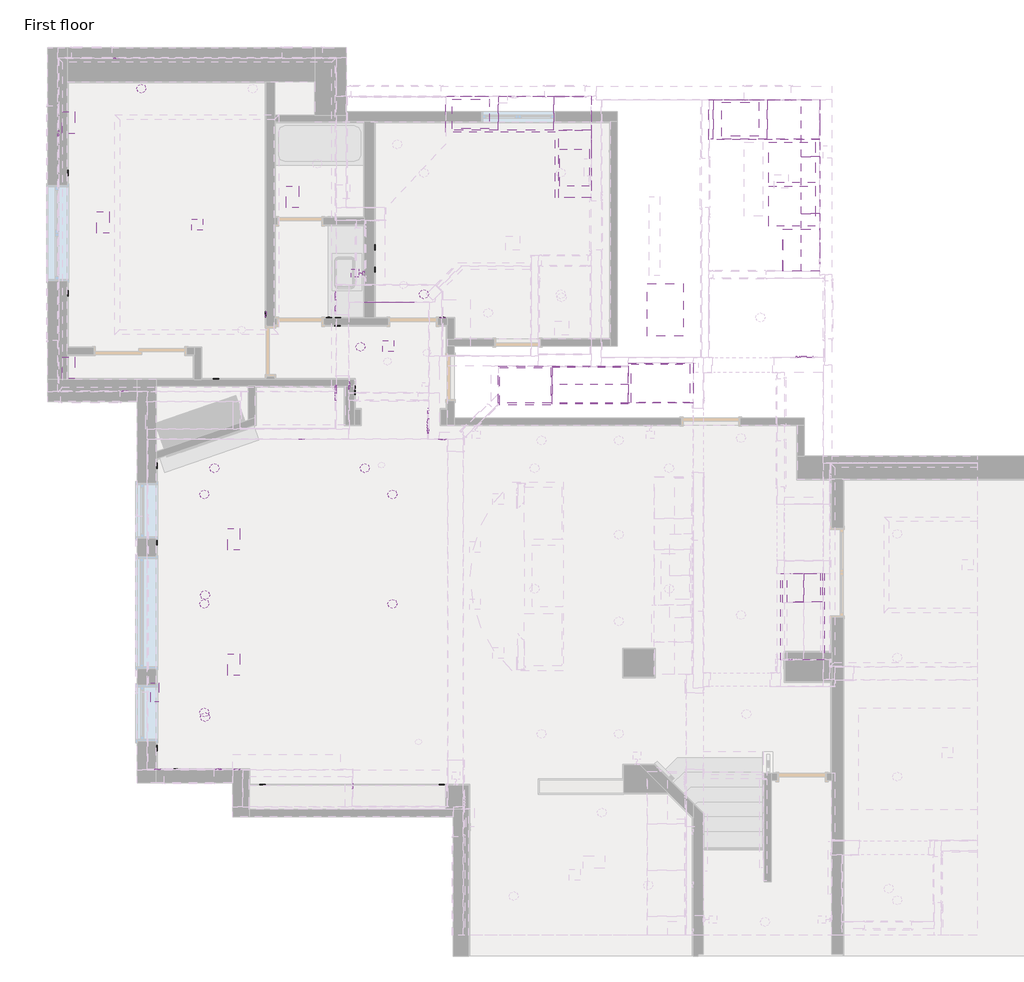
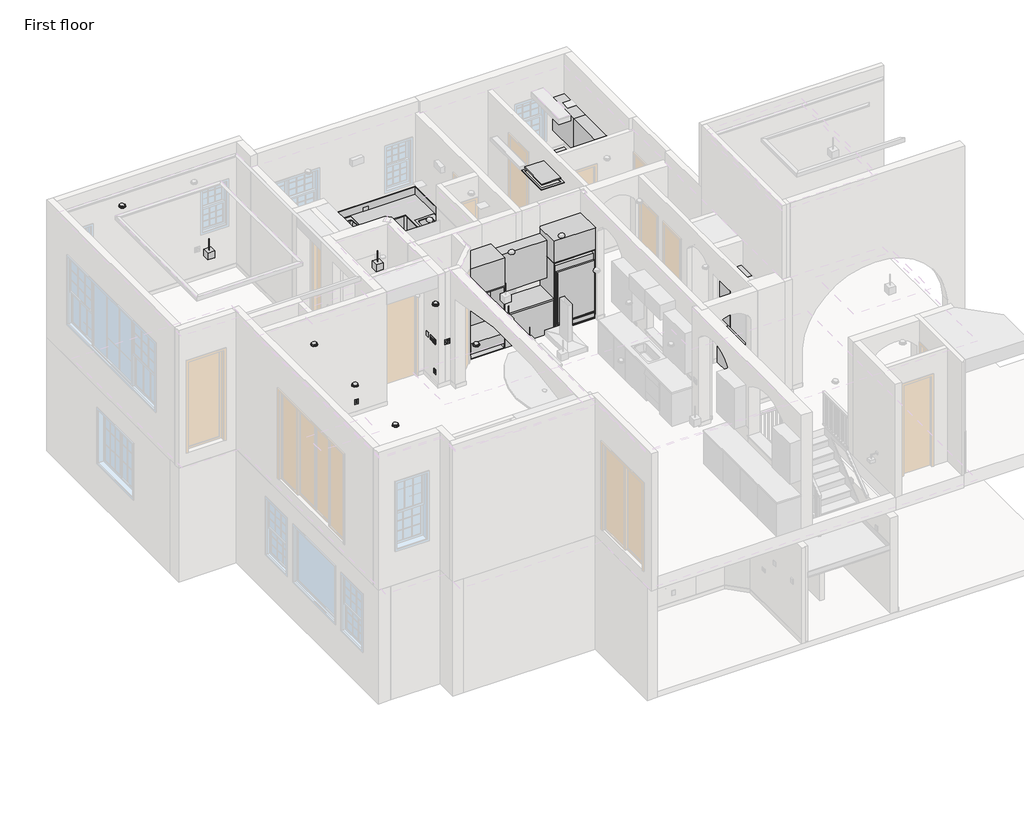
# One storey, part 12 of 14: 46 proxies, 26 furniture elements, 15 light fixtures, 8 air terminals, 3 flow terminals.
"""IFC4 building model written with IfcOpenShell, lengths in millimetres."""

from ifc_helpers import new_model, si_unit, frame, origin, place, context, project, spatial, polyline, outline, extrude, faceted_brep, transform, mapped, element, save
from components import c_grill_surface_based_standard_2_7b59e936, c_grill_surface_based_standard_2_45ac2899, c_grill_surface_based_standard_2_68979a2f, specialty_equipment_1_specialty_equipment_1_ee93a8f8, specialty_equipment_1_specialty_equipment_1_de8e0843, specialty_equipment_1_specialty_equipment_1_e1410e21, specialty_equipment_2_specialty_equipment_2_f9cf8948, switch_1_switch_1_abfddd09, switch_22_switch_22_35867e67, switch_3_switch_3_7c683c41, switch_4_switch_4_5f3987fe, switch_6_switch_6_e364368d, c_kitchen_sink_single_c_kitchen_sink_single_6c047c32, c_kitchen_sink_single_c_kitchen_sink_single_4_a6143ec4, c_cabinet_module_double_door_c_cabinet_module_double_door_1fb921e0, c_cabinet_module_double_door_c_cabinet_module_double_door_c146abdf, c_cabinet_module_double_door_c_cabinet_module_double_door_f981fd00, c_cabinet_module_double_door_c_cabinet_module_double_door_bf593a0d, c_cabinet_module_double_door_c_cabinet_module_double_door_be9bbc3e, c_cabinet_module_double_door_c_cabinet_module_double_door_87059c84, c_cabinet_module_double_door_c_cabinet_module_double_door_7147030d, c_cabinet_single_module_c_cabinet_single_module_e00544f8, c_cabinet_single_module_c_cabinet_single_module_c600df44, c_cabinet_single_module_c_cabinet_single_module_a6067ae1, c_cabinet_single_module_c_cabinet_single_module_e27e7181, c_cabinet_single_module_c_cabinet_single_module_ce7187a6, c_cabinet_single_module_c_cabinet_single_module_8d94940a, c_casework_empty_c_casework_empty_296c2951, c_counter_top_linear_without_skirting_c_counter_top_linear_7753b59d, c_counter_top_linear_without_skirting_c_counter_top_linear_65480b5c, c_counter_top_linear_counter_top_0d20d607, furniture_08fd158a, light_fixture_d200bb49, c_ceiling_lamp_c_ceiling_lamp_de8f2177, c_spotlight_recessed_light_2_4ee42974

model = new_model("IFC4")

# Units and contexts
model_context = context("Model", 3, world=origin())
ifc_project = project(units=[si_unit("LENGTHUNIT", "METRE", prefix="MILLI")], contexts=[model_context])

# Site, building, storey
site = spatial("IfcSite", under=ifc_project)
building = spatial("IfcBuilding", under=site)
storey = spatial("IfcBuildingStorey", under=building, Name="First floor", Elevation=0.0)

# Air terminals
placement = place(None, origin())
c_grill_surface_based_standard_2_shape = c_grill_surface_based_standard_2_7b59e936(model_context)
element("IfcAirTerminal", 1, ObjectType="C_Grill_Surface Based : Standard 2", at=placement, inside=storey, context=model_context, shape_type="MappedRepresentation", body=[
    mapped(c_grill_surface_based_standard_2_shape, transform((-4902.2, 4686.3, 3251.2), x_axis=(1.0, 0.0, 0.0), y_axis=(0.0, 1.0, 0.0), z_axis=(0.0, 0.0, 1.0))),
])
c_grill_surface_based_standard_2_2_shape = c_grill_surface_based_standard_2_45ac2899(model_context)
element("IfcAirTerminal", 2, ObjectType="C_Grill_Surface Based : Standard 2", at=placement, inside=storey, context=model_context, shape_type="MappedRepresentation", body=[
    mapped(c_grill_surface_based_standard_2_2_shape, transform((-3606.8, 5143.5, 2565.4), x_axis=(1.0, 0.0, 0.0), y_axis=(0.0, -1.0, 0.0), z_axis=(0.0, 0.0, -1.0))),
])
element("IfcAirTerminal", 3, ObjectType="C_Grill_Surface Based : Standard 2", at=placement, inside=storey, context=model_context, shape_type="MappedRepresentation", body=[
    mapped(c_grill_surface_based_standard_2_2_shape, transform((-3606.8, 7200.9, 2565.4), x_axis=(1.0, 0.0, 0.0), y_axis=(0.0, -1.0, 0.0), z_axis=(0.0, 0.0, -1.0))),
])
element("IfcAirTerminal", 4, ObjectType="C_Grill_Surface Based : Standard 2", at=placement, inside=storey, context=model_context, shape_type="MappedRepresentation", body=[
    mapped(c_grill_surface_based_standard_2_2_shape, transform((-5753.1, 12407.9, 2565.4), x_axis=(1.0, 0.0, 0.0), y_axis=(0.0, -1.0, 0.0), z_axis=(0.0, 0.0, -1.0))),
])
element("IfcAirTerminal", 5, ObjectType="C_Grill_Surface Based : Standard 2", at=placement, inside=storey, context=model_context, shape_type="MappedRepresentation", body=[
    mapped(c_grill_surface_based_standard_2_2_shape, transform((-2641.6, 12827.0, 2565.4), x_axis=(1.0, 0.0, 0.0), y_axis=(0.0, -1.0, 0.0), z_axis=(0.0, 0.0, -1.0))),
])
element("IfcAirTerminal", 6, ObjectType="C_Grill_Surface Based : Standard 2", at=placement, inside=storey, context=model_context, shape_type="MappedRepresentation", body=[
    mapped(c_grill_surface_based_standard_2_2_shape, transform((-6318.25, 10020.3, 3251.2), x_axis=(1.0, 0.0, 0.0), y_axis=(0.0, 1.0, 0.0), z_axis=(0.0, 0.0, 1.0))),
])
element("IfcAirTerminal", 7, ObjectType="C_Grill_Surface Based : Standard 2", at=placement, inside=storey, context=model_context, shape_type="MappedRepresentation", body=[
    mapped(c_grill_surface_based_standard_2_2_shape, transform((-6318.25, 14046.193904, 3251.2), x_axis=(1.0, 0.0, 0.0), y_axis=(0.0, 1.0, 0.0), z_axis=(0.0, 0.0, 1.0))),
])
c_grill_surface_based_standard_2_3_shape = c_grill_surface_based_standard_2_68979a2f(model_context)
element("IfcAirTerminal", 8, ObjectType="C_Grill_Surface Based : Standard 2", at=placement, inside=storey, context=model_context, shape_type="MappedRepresentation", body=[
    mapped(c_grill_surface_based_standard_2_3_shape, transform((-1047.4934784, 11099.8, 3594.1), x_axis=(-1.0, 0.0, 0.0), y_axis=(0.0, 0.0, -1.0), z_axis=(0.0, -1.0, 0.0))),
])

# Proxies
element("IfcBuildingElementProxy", 9, Name="C_Refrigerator : 30\" x 24\" LH", ObjectType="C_Refrigerator : 30\" x 24\" LH", at=placement, inside=storey, context=model_context, shape_type="SweptSolid", body=[
    extrude(outline(polyline([(3886.2, 9402.7128906), (3886.2, 9364.6128906), (2921.0, 9364.6128906), (2921.0, 9402.7128906), (3886.2, 9402.7128906)])), frame((0.0, 0.0, 3471.8625), z_axis=(0.0, 0.0, 1.0), x_axis=(1.0, 0.0, 0.0)), (0.0, 0.0, 1.0), 6.35),
    extrude(outline(polyline([(2921.0, 9402.7128906), (2927.35, 9402.7128906), (2927.35, 9364.6128906), (2921.0, 9364.6128906), (2921.0, 9402.7128906)])), frame((0.0, 0.0, 3481.3875), z_axis=(0.0, 0.0, 1.0), x_axis=(1.0, 0.0, 0.0)), (0.0, 0.0, 1.0), 1370.0125),
    extrude(outline(polyline([(3886.2, 10079.0871094), (3886.2, 9447.1628906), (2921.0, 9447.1628906), (2921.0, 10079.0871094), (3886.2, 10079.0871094)])), frame((0.0, 0.0, 3251.2), z_axis=(0.0, 0.0, 1.0), x_axis=(1.0, 0.0, 0.0)), (0.0, 0.0, 1.0), 1752.6),
    extrude(outline(polyline([(3886.2, 9440.8128906), (3886.2, 9402.7128906), (2921.0, 9402.7128906), (2921.0, 9440.8128906), (3886.2, 9440.8128906)])), frame((0.0, 0.0, 3481.3875), z_axis=(0.0, 0.0, 1.0), x_axis=(1.0, 0.0, 0.0)), (0.0, 0.0, 1.0), 1370.0125),
    extrude(outline(polyline([(3886.2, 9440.8128906), (3886.2, 9402.7128906), (2921.0, 9402.7128906), (2921.0, 9440.8128906), (3886.2, 9440.8128906)])), frame((0.0, 0.0, 3327.4), z_axis=(0.0, 0.0, 1.0), x_axis=(1.0, 0.0, 0.0)), (0.0, 0.0, 1.0), 150.8125),
])
specialty_equipment_1_specialty_equipment_1_shape = specialty_equipment_1_specialty_equipment_1_ee93a8f8(model_context)
element("IfcBuildingElementProxy", 10, Name="Specialty Equipment_1 : Specialty Equipment_1", ObjectType="Specialty Equipment_1 : Specialty Equipment_1", at=placement, inside=storey, context=model_context, shape_type="MappedRepresentation", body=[
    mapped(specialty_equipment_1_specialty_equipment_1_shape, transform((5181.6, 13392.0447939, 3251.2), x_axis=(0.0, 1.0, 0.0), y_axis=(-1.0, 0.0, 0.0), z_axis=(0.0, 0.0, 1.0))),
])
element("IfcBuildingElementProxy", 11, Name="Specialty Equipment_1 : Specialty Equipment_1", ObjectType="Specialty Equipment_1 : Specialty Equipment_1", at=placement, inside=storey, context=model_context, shape_type="MappedRepresentation", body=[
    mapped(specialty_equipment_1_specialty_equipment_1_shape, transform((5181.6, 12674.4947939, 3251.2), x_axis=(0.0, 1.0, 0.0), y_axis=(-1.0, 0.0, 0.0), z_axis=(0.0, 0.0, 1.0))),
])
specialty_equipment_1_specialty_equipment_1_2_shape = specialty_equipment_1_specialty_equipment_1_de8e0843(model_context)
element("IfcBuildingElementProxy", 12, Name="Specialty Equipment_1 : Specialty Equipment_1", ObjectType="Specialty Equipment_1 : Specialty Equipment_1", at=placement, inside=storey, context=model_context, shape_type="MappedRepresentation", body=[
    mapped(specialty_equipment_1_specialty_equipment_1_2_shape, transform((5651.5, 10210.6947939, 4597.4), x_axis=(1.0, 0.0, 0.0), y_axis=(0.0, 1.0, 0.0), z_axis=(0.0, 0.0, 1.0))),
])
specialty_equipment_1_specialty_equipment_1_3_shape = specialty_equipment_1_specialty_equipment_1_e1410e21(model_context)
element("IfcBuildingElementProxy", 13, Name="Specialty Equipment_1 : Specialty Equipment_1", ObjectType="Specialty Equipment_1 : Specialty Equipment_1", at=placement, inside=storey, context=model_context, shape_type="MappedRepresentation", body=[
    mapped(specialty_equipment_1_specialty_equipment_1_3_shape, transform((5803.9, 10210.6947939, 4597.4), x_axis=(1.0, 0.0, 0.0), y_axis=(0.0, 1.0, 0.0), z_axis=(0.0, 0.0, 1.0))),
])
specialty_equipment_2_specialty_equipment_2_shape = specialty_equipment_2_specialty_equipment_2_f9cf8948(model_context)
element("IfcBuildingElementProxy", 14, Name="Specialty Equipment_2 : Specialty Equipment_2", ObjectType="Specialty Equipment_2 : Specialty Equipment_2", at=placement, inside=storey, context=model_context, shape_type="MappedRepresentation", body=[
    mapped(specialty_equipment_2_specialty_equipment_2_shape, transform((1180.9972395, 10020.3, 3405.1875), x_axis=(1.0, 0.0, 0.0), y_axis=(0.0, 1.0, 0.0), z_axis=(0.0, 0.0, 1.0))),
])
switch_1_switch_1_shape = switch_1_switch_1_abfddd09(model_context)
element("IfcBuildingElementProxy", 15, Name="switch 1 : switch 1", ObjectType="switch 1 : switch 1", at=placement, inside=storey, context=model_context, shape_type="MappedRepresentation", body=[
    mapped(switch_1_switch_1_shape, transform((-1924.05, 11226.8, 3543.3), x_axis=(0.0, -1.0, 0.0), y_axis=(0.0, 0.0, 1.0), z_axis=(-1.0, 0.0, 0.0))),
])
element("IfcBuildingElementProxy", 16, Name="switch 1 : switch 1", ObjectType="switch 1 : switch 1", at=placement, inside=storey, context=model_context, shape_type="MappedRepresentation", body=[
    mapped(switch_1_switch_1_shape, transform((-1924.05, 10998.2, 4305.3), x_axis=(0.0, -1.0, 0.0), y_axis=(0.0, 0.0, 1.0), z_axis=(-1.0, 0.0, 0.0))),
])
element("IfcBuildingElementProxy", 17, Name="switch 1 : switch 1", ObjectType="switch 1 : switch 1", at=placement, inside=storey, context=model_context, shape_type="MappedRepresentation", body=[
    mapped(switch_1_switch_1_shape, transform((-3549.65, 3416.3, 3581.4), x_axis=(-1.0, 0.0, 0.0), y_axis=(0.0, 0.0, 1.0), z_axis=(0.0, 1.0, 0.0))),
])
element("IfcBuildingElementProxy", 18, Name="switch 1 : switch 1", ObjectType="switch 1 : switch 1", at=placement, inside=storey, context=model_context, shape_type="MappedRepresentation", body=[
    mapped(switch_1_switch_1_shape, transform((-4857.75, 3416.3, 3556.0), x_axis=(-1.0, 0.0, 0.0), y_axis=(0.0, 0.0, 1.0), z_axis=(0.0, 1.0, 0.0))),
])
element("IfcBuildingElementProxy", 19, Name="switch 1 : switch 1", ObjectType="switch 1 : switch 1", at=placement, inside=storey, context=model_context, shape_type="MappedRepresentation", body=[
    mapped(switch_1_switch_1_shape, transform((-406.4, 9315.45, 4356.1), x_axis=(0.0, -1.0, 0.0), y_axis=(0.0, 0.0, 1.0), z_axis=(-1.0, 0.0, 0.0))),
])
element("IfcBuildingElementProxy", 20, Name="switch 1 : switch 1", ObjectType="switch 1 : switch 1", at=placement, inside=storey, context=model_context, shape_type="MappedRepresentation", body=[
    mapped(switch_1_switch_1_shape, transform((-4876.8, 8407.4, 1104.9), x_axis=(0.0, 1.0, 0.0), y_axis=(0.0, 0.0, 1.0), z_axis=(1.0, 0.0, 0.0))),
])
element("IfcBuildingElementProxy", 21, Name="switch 1 : switch 1", ObjectType="switch 1 : switch 1", at=placement, inside=storey, context=model_context, shape_type="MappedRepresentation", body=[
    mapped(switch_1_switch_1_shape, transform((-1625.6, 9677.4, 292.1), x_axis=(0.0, 1.0, 0.0), y_axis=(0.0, 0.0, 1.0), z_axis=(1.0, 0.0, 0.0))),
])
element("IfcBuildingElementProxy", 22, Name="switch 1 : switch 1", ObjectType="switch 1 : switch 1", at=placement, inside=storey, context=model_context, shape_type="MappedRepresentation", body=[
    mapped(switch_1_switch_1_shape, transform((-1295.4, 11995.15, 292.1), x_axis=(0.0, 1.0, 0.0), y_axis=(0.0, 0.0, 1.0), z_axis=(1.0, 0.0, 0.0))),
])
element("IfcBuildingElementProxy", 23, Name="switch 1 : switch 1", ObjectType="switch 1 : switch 1", at=placement, inside=storey, context=model_context, shape_type="MappedRepresentation", body=[
    mapped(switch_1_switch_1_shape, transform((-177.8, 10833.1, 1282.7), x_axis=(-1.0, 0.0, 0.0), y_axis=(0.0, 0.0, 1.0), z_axis=(0.0, 1.0, 0.0))),
])
element("IfcBuildingElementProxy", 24, Name="switch 1 : switch 1", ObjectType="switch 1 : switch 1", at=placement, inside=storey, context=model_context, shape_type="MappedRepresentation", body=[
    mapped(switch_1_switch_1_shape, transform((-3073.4, 10896.6, 1320.8), x_axis=(0.0, -1.0, 0.0), y_axis=(0.0, 0.0, 1.0), z_axis=(-1.0, 0.0, 0.0))),
])
element("IfcBuildingElementProxy", 25, Name="switch 1 : switch 1", ObjectType="switch 1 : switch 1", at=placement, inside=storey, context=model_context, shape_type="MappedRepresentation", body=[
    mapped(switch_1_switch_1_shape, transform((-1892.3, 10833.1, 1079.5), x_axis=(-1.0, 0.0, 0.0), y_axis=(0.0, 0.0, 1.0), z_axis=(0.0, 1.0, 0.0))),
])
switch_22_switch_22_shape = switch_22_switch_22_35867e67(model_context)
element("IfcBuildingElementProxy", 26, Name="switch 22 : switch 22", ObjectType="switch 22 : switch 22", at=placement, inside=storey, context=model_context, shape_type="MappedRepresentation", body=[
    mapped(switch_22_switch_22_shape, transform((-1924.05, 9594.85, 4318.0), x_axis=(0.0, -1.0, 0.0), y_axis=(0.0, 0.0, 1.0), z_axis=(-1.0, 0.0, 0.0))),
])
element("IfcBuildingElementProxy", 27, Name="switch 22 : switch 22", ObjectType="switch 22 : switch 22", at=placement, inside=storey, context=model_context, shape_type="MappedRepresentation", body=[
    mapped(switch_22_switch_22_shape, transform((-406.4, 9067.8, 4356.1), x_axis=(0.0, -1.0, 0.0), y_axis=(0.0, 0.0, 1.0), z_axis=(-1.0, 0.0, 0.0))),
])
switch_3_switch_3_shape = switch_3_switch_3_7c683c41(model_context)
element("IfcBuildingElementProxy", 28, Name="switch 3 : switch 3", ObjectType="switch 3 : switch 3", at=placement, inside=storey, context=model_context, shape_type="MappedRepresentation", body=[
    mapped(switch_3_switch_3_shape, transform((-3854.45, 3416.3, 4356.1), x_axis=(-1.0, 0.0, 0.0), y_axis=(0.0, 0.0, 1.0), z_axis=(0.0, 1.0, 0.0))),
])
element("IfcBuildingElementProxy", 29, Name="switch 3 : switch 3", ObjectType="switch 3 : switch 3", at=placement, inside=storey, context=model_context, shape_type="MappedRepresentation", body=[
    mapped(switch_3_switch_3_shape, transform((-177.8, 10833.1, 1079.5), x_axis=(-1.0, 0.0, 0.0), y_axis=(0.0, 0.0, 1.0), z_axis=(0.0, 1.0, 0.0))),
])
element("IfcBuildingElementProxy", 30, Name="switch 3 : switch 3", ObjectType="switch 3 : switch 3", at=placement, inside=storey, context=model_context, shape_type="MappedRepresentation", body=[
    mapped(switch_3_switch_3_shape, transform((-3073.4, 10896.6, 1079.5), x_axis=(0.0, -1.0, 0.0), y_axis=(0.0, 0.0, 1.0), z_axis=(-1.0, 0.0, 0.0))),
])
element("IfcBuildingElementProxy", 31, Name="switch 3 : switch 3", ObjectType="switch 3 : switch 3", at=placement, inside=storey, context=model_context, shape_type="MappedRepresentation", body=[
    mapped(switch_3_switch_3_shape, transform((-2044.7, 10833.1, 1079.5), x_axis=(-1.0, 0.0, 0.0), y_axis=(0.0, 0.0, 1.0), z_axis=(0.0, 1.0, 0.0))),
])
switch_4_switch_4_shape = switch_4_switch_4_5f3987fe(model_context)
element("IfcBuildingElementProxy", 32, Name="switch 4 : switch 4", ObjectType="switch 4 : switch 4", at=placement, inside=storey, context=model_context, shape_type="MappedRepresentation", body=[
    mapped(switch_4_switch_4_shape, transform((-5401.0029797, 9626.6, 3543.3), x_axis=(-1.0, 0.0, 0.0), y_axis=(0.0, 0.0, 1.0), z_axis=(0.0, 1.0, 0.0))),
])
element("IfcBuildingElementProxy", 33, Name="switch 4 : switch 4", ObjectType="switch 4 : switch 4", at=placement, inside=storey, context=model_context, shape_type="MappedRepresentation", body=[
    mapped(switch_4_switch_4_shape, transform((-1924.05, 9690.1, 3543.3), x_axis=(0.0, -1.0, 0.0), y_axis=(0.0, 0.0, 1.0), z_axis=(-1.0, 0.0, 0.0))),
])
element("IfcBuildingElementProxy", 34, Name="switch 4 : switch 4", ObjectType="switch 4 : switch 4", at=placement, inside=storey, context=model_context, shape_type="MappedRepresentation", body=[
    mapped(switch_4_switch_4_shape, transform((-1924.05, 10998.2, 3543.3), x_axis=(0.0, -1.0, 0.0), y_axis=(0.0, 0.0, 1.0), z_axis=(-1.0, 0.0, 0.0))),
])
element("IfcBuildingElementProxy", 35, Name="switch 4 : switch 4", ObjectType="switch 4 : switch 4", at=placement, inside=storey, context=model_context, shape_type="MappedRepresentation", body=[
    mapped(switch_4_switch_4_shape, transform((-5533.6970203, 15113.0, 4000.5), x_axis=(1.0, 0.0, 0.0), y_axis=(0.0, 0.0, 1.0), z_axis=(0.0, -1.0, 0.0))),
])
element("IfcBuildingElementProxy", 36, Name="switch 4 : switch 4", ObjectType="switch 4 : switch 4", at=placement, inside=storey, context=model_context, shape_type="MappedRepresentation", body=[
    mapped(switch_4_switch_4_shape, transform((-6496.05, 13868.4, 3543.3), x_axis=(0.0, 1.0, 0.0), y_axis=(0.0, 0.0, 1.0), z_axis=(1.0, 0.0, 0.0))),
])
element("IfcBuildingElementProxy", 37, Name="switch 4 : switch 4", ObjectType="switch 4 : switch 4", at=placement, inside=storey, context=model_context, shape_type="MappedRepresentation", body=[
    mapped(switch_4_switch_4_shape, transform((-1663.7, 3143.25, 3543.3006729), x_axis=(0.0, 1.0, 0.0), y_axis=(0.0, 0.0, 1.0), z_axis=(1.0, 0.0, 0.0))),
])
element("IfcBuildingElementProxy", 38, Name="switch 4 : switch 4", ObjectType="switch 4 : switch 4", at=placement, inside=storey, context=model_context, shape_type="MappedRepresentation", body=[
    mapped(switch_4_switch_4_shape, transform((-2489.2, 8851.9, 3543.3006729), x_axis=(1.0, 0.0, 0.0), y_axis=(0.0, 0.0, 1.0), z_axis=(0.0, -1.0, 0.0))),
])
element("IfcBuildingElementProxy", 39, Name="switch 4 : switch 4", ObjectType="switch 4 : switch 4", at=placement, inside=storey, context=model_context, shape_type="MappedRepresentation", body=[
    mapped(switch_4_switch_4_shape, transform((-406.4, 8981.7470203, 3556.0), x_axis=(0.0, -1.0, 0.0), y_axis=(0.0, 0.0, 1.0), z_axis=(-1.0, 0.0, 0.0))),
])
element("IfcBuildingElementProxy", 40, Name="switch 4 : switch 4", ObjectType="switch 4 : switch 4", at=placement, inside=storey, context=model_context, shape_type="MappedRepresentation", body=[
    mapped(switch_4_switch_4_shape, transform((-4876.8, 7150.1, 292.1006729), x_axis=(0.0, 1.0, 0.0), y_axis=(0.0, 0.0, 1.0), z_axis=(1.0, 0.0, 0.0))),
])
element("IfcBuildingElementProxy", 41, Name="switch 4 : switch 4", ObjectType="switch 4 : switch 4", at=placement, inside=storey, context=model_context, shape_type="MappedRepresentation", body=[
    mapped(switch_4_switch_4_shape, transform((-4876.8, 3771.9, 292.1006729), x_axis=(0.0, 1.0, 0.0), y_axis=(0.0, 0.0, 1.0), z_axis=(1.0, 0.0, 0.0))),
])
element("IfcBuildingElementProxy", 42, Name="switch 4 : switch 4", ObjectType="switch 4 : switch 4", at=placement, inside=storey, context=model_context, shape_type="MappedRepresentation", body=[
    mapped(switch_4_switch_4_shape, transform((-4572.0, 3416.3, 292.1006729), x_axis=(-1.0, 0.0, 0.0), y_axis=(0.0, 0.0, 1.0), z_axis=(0.0, 1.0, 0.0))),
])
element("IfcBuildingElementProxy", 43, Name="switch 4 : switch 4", ObjectType="switch 4 : switch 4", at=placement, inside=storey, context=model_context, shape_type="MappedRepresentation", body=[
    mapped(switch_4_switch_4_shape, transform((-3136.9, 3162.3, 292.1006729), x_axis=(-1.0, 0.0, 0.0), y_axis=(0.0, 0.0, 1.0), z_axis=(0.0, 1.0, 0.0))),
])
element("IfcBuildingElementProxy", 44, Name="switch 4 : switch 4", ObjectType="switch 4 : switch 4", at=placement, inside=storey, context=model_context, shape_type="MappedRepresentation", body=[
    mapped(switch_4_switch_4_shape, transform((-190.5, 3162.3, 292.1006729), x_axis=(-1.0, 0.0, 0.0), y_axis=(0.0, 0.0, 1.0), z_axis=(0.0, 1.0, 0.0))),
])
element("IfcBuildingElementProxy", 45, Name="switch 4 : switch 4", ObjectType="switch 4 : switch 4", at=placement, inside=storey, context=model_context, shape_type="MappedRepresentation", body=[
    mapped(switch_4_switch_4_shape, transform((-1905.0, 10718.8, 292.1), x_axis=(1.0, 0.0, 0.0), y_axis=(0.0, 0.0, 1.0), z_axis=(0.0, -1.0, 0.0))),
])
element("IfcBuildingElementProxy", 46, Name="switch 4 : switch 4", ObjectType="switch 4 : switch 4", at=placement, inside=storey, context=model_context, shape_type="MappedRepresentation", body=[
    mapped(switch_4_switch_4_shape, transform((-1295.4, 11633.2, 292.1), x_axis=(0.0, 1.0, 0.0), y_axis=(0.0, 0.0, 1.0), z_axis=(1.0, 0.0, 0.0))),
])
element("IfcBuildingElementProxy", 47, Name="switch 4 : switch 4", ObjectType="switch 4 : switch 4", at=placement, inside=storey, context=model_context, shape_type="MappedRepresentation", body=[
    mapped(switch_4_switch_4_shape, transform((-6337.3, 11239.5, 292.1), x_axis=(0.0, 1.0, 0.0), y_axis=(0.0, 0.0, 1.0), z_axis=(1.0, 0.0, 0.0))),
])
element("IfcBuildingElementProxy", 48, Name="switch 4 : switch 4", ObjectType="switch 4 : switch 4", at=placement, inside=storey, context=model_context, shape_type="MappedRepresentation", body=[
    mapped(switch_4_switch_4_shape, transform((-6337.3, 13220.7, 292.1), x_axis=(0.0, 1.0, 0.0), y_axis=(0.0, 0.0, 1.0), z_axis=(1.0, 0.0, 0.0))),
])
element("IfcBuildingElementProxy", 49, Name="switch 4 : switch 4", ObjectType="switch 4 : switch 4", at=placement, inside=storey, context=model_context, shape_type="MappedRepresentation", body=[
    mapped(switch_4_switch_4_shape, transform((-3898.9, 9829.8, 292.1), x_axis=(-1.0, 0.0, 0.0), y_axis=(0.0, 0.0, 1.0), z_axis=(0.0, 1.0, 0.0))),
])
switch_6_switch_6_shape = switch_6_switch_6_e364368d(model_context)
element("IfcBuildingElementProxy", 50, Name="switch 6 : switch 6", ObjectType="switch 6 : switch 6", at=placement, inside=storey, context=model_context, shape_type="MappedRepresentation", body=[
    mapped(switch_6_switch_6_shape, transform((-5378.45, 9626.6, 4305.3), x_axis=(-1.0, 0.0, 0.0), y_axis=(0.0, 0.0, 1.0), z_axis=(0.0, 1.0, 0.0))),
])
element("IfcBuildingElementProxy", 51, Name="switch 6 : switch 6", ObjectType="switch 6 : switch 6", at=placement, inside=storey, context=model_context, shape_type="MappedRepresentation", body=[
    mapped(switch_6_switch_6_shape, transform((-1924.05, 11195.05, 4305.3), x_axis=(0.0, -1.0, 0.0), y_axis=(0.0, 0.0, 1.0), z_axis=(-1.0, 0.0, 0.0))),
])
element("IfcBuildingElementProxy", 52, Name="switch 6 : switch 6", ObjectType="switch 6 : switch 6", at=placement, inside=storey, context=model_context, shape_type="MappedRepresentation", body=[
    mapped(switch_6_switch_6_shape, transform((-177.8, 8851.9, 4356.1), x_axis=(1.0, 0.0, 0.0), y_axis=(0.0, 0.0, 1.0), z_axis=(0.0, -1.0, 0.0))),
])
element("IfcBuildingElementProxy", 53, Name="switch 6 : switch 6", ObjectType="switch 6 : switch 6", at=placement, inside=storey, context=model_context, shape_type="MappedRepresentation", body=[
    mapped(switch_6_switch_6_shape, transform((-1720.85, 9728.2, 4305.3), x_axis=(0.0, 1.0, 0.0), y_axis=(0.0, 0.0, 1.0), z_axis=(1.0, 0.0, 0.0))),
])
element("IfcBuildingElementProxy", 54, Name="switch 6 : switch 6", ObjectType="switch 6 : switch 6", at=placement, inside=storey, context=model_context, shape_type="MappedRepresentation", body=[
    mapped(switch_6_switch_6_shape, transform((-1625.6, 9639.3, 1066.8), x_axis=(0.0, 1.0, 0.0), y_axis=(0.0, 0.0, 1.0), z_axis=(1.0, 0.0, 0.0))),
])

# Flow terminals
c_kitchen_sink_single_c_kitchen_sink_single_shape = c_kitchen_sink_single_c_kitchen_sink_single_6c047c32(model_context)
element("IfcFlowTerminal", 55, ObjectType="C_Kitchen Sink Single : C_Kitchen Sink Single", at=placement, inside=storey, context=model_context, shape_type="MappedRepresentation", body=[
    mapped(c_kitchen_sink_single_c_kitchen_sink_single_shape, transform((34.5408031, 14189.7993928, 4114.8), x_axis=(-1.0, 0.0, 0.0), y_axis=(0.0, -1.0, 0.0), z_axis=(0.0, 0.0, 1.0))),
])
element("IfcFlowTerminal", 56, ObjectType="C_Kitchen Sink Single : C_Kitchen Sink Single", at=placement, inside=storey, context=model_context, shape_type="MappedRepresentation", body=[
    mapped(c_kitchen_sink_single_c_kitchen_sink_single_shape, transform((1985.2045989, 13555.1477408, 4114.8), x_axis=(0.0, 1.0, 0.0), y_axis=(-1.0, 0.0, 0.0), z_axis=(0.0, 0.0, 1.0))),
])
c_kitchen_sink_single_c_kitchen_sink_single_4_shape = c_kitchen_sink_single_c_kitchen_sink_single_4_a6143ec4(model_context)
element("IfcFlowTerminal", 57, ObjectType="C_Kitchen Sink Single : C_Kitchen Sink Single 4", at=placement, inside=storey, context=model_context, shape_type="MappedRepresentation", body=[
    mapped(c_kitchen_sink_single_c_kitchen_sink_single_4_shape, transform((4962.7107594, 14100.8993928, 4102.1), x_axis=(1.0, 0.0, 0.0), y_axis=(0.0, 1.0, 0.0), z_axis=(0.0, 0.0, 1.0))),
])

# Furniture
element("IfcFurniture", 58, ObjectType="C_Cabinet Module Double Door : C_Cabinet Module Double Door", at=placement, inside=storey, context=model_context, shape_type="Brep", body=[
    faceted_brep([(-127.0, 14477.8947939, 4089.4), (-127.0, 13925.4447939, 4089.4), (735.0125, 13925.4447939, 4089.4), (735.0125, 14477.8947939, 4089.4), (590.3515625, 13950.8447939, 4089.4), (-19.2484375, 13950.8447939, 4089.4), (-19.2484375, 14433.4447939, 4089.4), (590.3515625, 14433.4447939, 4089.4), (-127.0, 14477.8947939, 3251.2), (735.0125, 14477.8947939, 3251.2), (735.0125, 13925.4447939, 3251.2), (-127.0, 13925.4447939, 3251.2), (-19.2484375, 13950.8447939, 3898.9), (590.3515625, 13950.8447939, 3898.9), (590.3515625, 14433.4447939, 3898.9), (-19.2484375, 14433.4447939, 3898.9)], [[[0, 1, 2, 3], [4, 5, 6, 7]], [[8, 9, 10, 11]], [[0, 3, 9, 8]], [[3, 2, 10, 9]], [[2, 1, 11, 10]], [[1, 0, 8, 11]], [[12, 13, 14, 15]], [[13, 12, 5, 4]], [[14, 13, 4, 7]], [[15, 14, 7, 6]], [[12, 15, 6, 5]]]),
])
element("IfcFurniture", 59, ObjectType="C_Cabinet Module Double Door : C_Cabinet Module Double Door", at=placement, inside=storey, context=model_context, shape_type="Brep", body=[
    faceted_brep([(2260.6, 13925.4447939, 4089.4), (1727.2, 13925.4447939, 4089.4), (1727.2, 12814.1947939, 4089.4), (2260.6, 12814.1947939, 4089.4), (1746.25, 12999.3369814, 4089.4), (1746.25, 13608.9369814, 4089.4), (2228.85, 13608.9369814, 4089.4), (2228.85, 12999.3369814, 4089.4), (2260.6, 13925.4447939, 3251.2), (2260.6, 12814.1947939, 3251.2), (1727.2, 12814.1947939, 3251.2), (1727.2, 13925.4447939, 3251.2), (1746.25, 13608.9369814, 3898.9), (1746.25, 12999.3369814, 3898.9), (2228.85, 12999.3369814, 3898.9), (2228.85, 13608.9369814, 3898.9)], [[[0, 1, 2, 3], [4, 5, 6, 7]], [[8, 9, 10, 11]], [[0, 3, 9, 8]], [[3, 2, 10, 9]], [[2, 1, 11, 10]], [[1, 0, 8, 11]], [[12, 13, 14, 15]], [[13, 12, 5, 4]], [[14, 13, 4, 7]], [[15, 14, 7, 6]], [[12, 15, 6, 5]]]),
])
element("IfcFurniture", 60, ObjectType="C_Cabinet Module Double Door : C_Cabinet Module Double Door", at=placement, inside=storey, context=model_context, shape_type="Brep", body=[
    faceted_brep([(4267.2, 14427.0947939, 4076.7), (4267.2, 13773.0447939, 4076.7), (5156.2, 13773.0447939, 4076.7), (5156.2, 14427.0947939, 4076.7), (5016.5, 13823.8447939, 4076.7), (4406.9, 13823.8447939, 4076.7), (4406.9, 14382.6447939, 4076.7), (5016.5, 14382.6447939, 4076.7), (4267.2, 14427.0947939, 3251.2), (5156.2, 14427.0947939, 3251.2), (5156.2, 13773.0447939, 3251.2), (4267.2, 13773.0447939, 3251.2), (5016.5, 13823.8447939, 3886.2), (5016.5, 14382.6447939, 3886.2), (4406.9, 14382.6447939, 3886.2), (4406.9, 13823.8447939, 3886.2)], [[[0, 1, 2, 3], [4, 5, 6, 7]], [[8, 9, 10, 11]], [[0, 3, 9, 8]], [[3, 2, 10, 9]], [[2, 1, 11, 10]], [[1, 0, 8, 11]], [[12, 13, 14, 15]], [[12, 15, 5, 4]], [[15, 14, 6, 5]], [[14, 13, 7, 6]], [[13, 12, 4, 7]]]),
])
c_cabinet_module_double_door_c_cabinet_module_double_door_shape = c_cabinet_module_double_door_c_cabinet_module_double_door_1fb921e0(model_context)
element("IfcFurniture", 61, ObjectType="C_Cabinet Module Double Door : C_Cabinet Module Double Door", at=placement, inside=storey, context=model_context, shape_type="MappedRepresentation", body=[
    mapped(c_cabinet_module_double_door_c_cabinet_module_double_door_shape, transform((3403.6, 10096.5, 5105.4), x_axis=(-1.0, 0.0, 0.0), y_axis=(0.0, -1.0, 0.0), z_axis=(0.0, 0.0, 1.0))),
])
c_cabinet_module_double_door_c_cabinet_module_double_door_2_shape = c_cabinet_module_double_door_c_cabinet_module_double_door_c146abdf(model_context)
element("IfcFurniture", 62, ObjectType="C_Cabinet Module Double Door : C_Cabinet Module Double Door", at=placement, inside=storey, context=model_context, shape_type="MappedRepresentation", body=[
    mapped(c_cabinet_module_double_door_c_cabinet_module_double_door_2_shape, transform((1180.9972395, 10045.7, 4929.1875), x_axis=(-1.0, 0.0, 0.0), y_axis=(0.0, -1.0, 0.0), z_axis=(0.0, 0.0, 1.0))),
])
c_cabinet_module_double_door_c_cabinet_module_double_door_3_shape = c_cabinet_module_double_door_c_cabinet_module_double_door_f981fd00(model_context)
element("IfcFurniture", 63, ObjectType="C_Cabinet Module Double Door : C_Cabinet Module Double Door", at=placement, inside=storey, context=model_context, shape_type="MappedRepresentation", body=[
    mapped(c_cabinet_module_double_door_c_cabinet_module_double_door_3_shape, transform((2247.8503906, 10045.7, 3251.2), x_axis=(-1.0, 0.0, 0.0), y_axis=(0.0, -1.0, 0.0), z_axis=(0.0, 0.0, 1.0))),
])
c_cabinet_module_double_door_c_cabinet_module_double_door_4_shape = c_cabinet_module_double_door_c_cabinet_module_double_door_bf593a0d(model_context)
element("IfcFurniture", 64, ObjectType="C_Cabinet Module Double Door : C_Cabinet Module Double Door", at=placement, inside=storey, context=model_context, shape_type="MappedRepresentation", body=[
    mapped(c_cabinet_module_double_door_c_cabinet_module_double_door_4_shape, transform((1192.2125, 14477.8947939, 3251.2), x_axis=(-1.0, 0.0, 0.0), y_axis=(0.0, -1.0, 0.0), z_axis=(0.0, 0.0, 1.0))),
])
c_cabinet_module_double_door_c_cabinet_module_double_door_5_shape = c_cabinet_module_double_door_c_cabinet_module_double_door_be9bbc3e(model_context)
element("IfcFurniture", 65, ObjectType="C_Cabinet Module Double Door : C_Cabinet Module Double Door", at=placement, inside=storey, context=model_context, shape_type="MappedRepresentation", body=[
    mapped(c_cabinet_module_double_door_c_cabinet_module_double_door_5_shape, transform((6019.8, 12077.5947939, 4673.6), x_axis=(0.0, 1.0, 0.0), y_axis=(-1.0, 0.0, 0.0), z_axis=(0.0, 0.0, 1.0))),
])
element("IfcFurniture", 66, ObjectType="C_Cabinet Module Double Door : C_Cabinet Module Double Door", at=placement, inside=storey, context=model_context, shape_type="MappedRepresentation", body=[
    mapped(c_cabinet_module_double_door_c_cabinet_module_double_door_5_shape, transform((6019.8, 13017.3947939, 4673.6), x_axis=(0.0, 1.0, 0.0), y_axis=(-1.0, 0.0, 0.0), z_axis=(0.0, 0.0, 1.0))),
])
element("IfcFurniture", 67, ObjectType="C_Cabinet Module Double Door : C_Cabinet Module Double Door", at=placement, inside=storey, context=model_context, shape_type="MappedRepresentation", body=[
    mapped(c_cabinet_module_double_door_c_cabinet_module_double_door_5_shape, transform((6019.8, 13957.1947939, 4673.6), x_axis=(0.0, 1.0, 0.0), y_axis=(-1.0, 0.0, 0.0), z_axis=(0.0, 0.0, 1.0))),
])
c_cabinet_module_double_door_c_cabinet_module_double_door_6_shape = c_cabinet_module_double_door_c_cabinet_module_double_door_87059c84(model_context)
element("IfcFurniture", 68, ObjectType="C_Cabinet Module Double Door : C_Cabinet Module Double Door", at=placement, inside=storey, context=model_context, shape_type="MappedRepresentation", body=[
    mapped(c_cabinet_module_double_door_c_cabinet_module_double_door_6_shape, transform((6019.8, 11950.5947939, 3251.2), x_axis=(0.0, 1.0, 0.0), y_axis=(-1.0, 0.0, 0.0), z_axis=(0.0, 0.0, 1.0))),
])
c_cabinet_module_double_door_c_cabinet_module_double_door_7_shape = c_cabinet_module_double_door_c_cabinet_module_double_door_7147030d(model_context)
element("IfcFurniture", 69, ObjectType="C_Cabinet Module Double Door : C_Cabinet Module Double Door", at=placement, inside=storey, context=model_context, shape_type="MappedRepresentation", body=[
    mapped(c_cabinet_module_double_door_c_cabinet_module_double_door_7_shape, transform((2247.8468488, 10045.7, 4521.2), x_axis=(-1.0, 0.0, 0.0), y_axis=(0.0, -1.0, 0.0), z_axis=(0.0, 0.0, 1.0))),
])
c_cabinet_single_module_c_cabinet_single_module_shape = c_cabinet_single_module_c_cabinet_single_module_e00544f8(model_context)
element("IfcFurniture", 70, ObjectType="C_Cabinet Single Module : C_Cabinet Single Module", at=placement, inside=storey, context=model_context, shape_type="MappedRepresentation", body=[
    mapped(c_cabinet_single_module_c_cabinet_single_module_shape, transform((5410.2, 6404.6635439, 3251.2), x_axis=(0.0, 1.0, 0.0), y_axis=(-1.0, 0.0, 0.0), z_axis=(0.0, 0.0, 1.0))),
])
c_cabinet_single_module_c_cabinet_single_module_2_shape = c_cabinet_single_module_c_cabinet_single_module_c600df44(model_context)
element("IfcFurniture", 71, ObjectType="C_Cabinet Single Module : C_Cabinet Single Module", at=placement, inside=storey, context=model_context, shape_type="MappedRepresentation", body=[
    mapped(c_cabinet_single_module_c_cabinet_single_module_2_shape, transform((5753.1, 6406.2510439, 3251.2), x_axis=(0.0, 1.0, 0.0), y_axis=(-1.0, 0.0, 0.0), z_axis=(0.0, 0.0, 1.0))),
])
c_cabinet_single_module_c_cabinet_single_module_3_shape = c_cabinet_single_module_c_cabinet_single_module_a6067ae1(model_context)
element("IfcFurniture", 72, ObjectType="C_Cabinet Single Module : C_Cabinet Single Module", at=placement, inside=storey, context=model_context, shape_type="MappedRepresentation", body=[
    mapped(c_cabinet_single_module_c_cabinet_single_module_3_shape, transform((1955.00625, 14477.8947939, 3251.2), x_axis=(1.0, 0.0, 0.0), y_axis=(0.0, 1.0, 0.0), z_axis=(0.0, 0.0, 1.0))),
])
c_cabinet_single_module_c_cabinet_single_module_4_shape = c_cabinet_single_module_c_cabinet_single_module_e27e7181(model_context)
element("IfcFurniture", 73, ObjectType="C_Cabinet Single Module : C_Cabinet Single Module", at=placement, inside=storey, context=model_context, shape_type="MappedRepresentation", body=[
    mapped(c_cabinet_single_module_c_cabinet_single_module_4_shape, transform((5480.05, 6406.2510439, 4446.5875), x_axis=(0.0, 1.0, 0.0), y_axis=(-1.0, 0.0, 0.0), z_axis=(0.0, 0.0, 1.0))),
])
c_cabinet_single_module_c_cabinet_single_module_5_shape = c_cabinet_single_module_c_cabinet_single_module_ce7187a6(model_context)
element("IfcFurniture", 74, ObjectType="C_Cabinet Single Module : C_Cabinet Single Module", at=placement, inside=storey, context=model_context, shape_type="MappedRepresentation", body=[
    mapped(c_cabinet_single_module_c_cabinet_single_module_5_shape, transform((4229.1, 14427.0947939, 3251.2), x_axis=(1.0, 0.0, 0.0), y_axis=(0.0, 1.0, 0.0), z_axis=(0.0, 0.0, 1.0))),
])
c_cabinet_single_module_c_cabinet_single_module_6_shape = c_cabinet_single_module_c_cabinet_single_module_8d94940a(model_context)
element("IfcFurniture", 75, ObjectType="C_Cabinet Single Module : C_Cabinet Single Module", at=placement, inside=storey, context=model_context, shape_type="MappedRepresentation", body=[
    mapped(c_cabinet_single_module_c_cabinet_single_module_6_shape, transform((5588.0, 14427.0947939, 3251.2), x_axis=(1.0, 0.0, 0.0), y_axis=(0.0, 1.0, 0.0), z_axis=(0.0, 0.0, 1.0))),
])
element("IfcFurniture", 76, ObjectType="C_Casework Empty : C_Casework Empty", at=placement, inside=storey, context=model_context, shape_type="Brep", body=[
    faceted_brep([(2870.2, 9436.1, 3251.2), (3937.0, 9436.1, 3251.2), (3937.0, 9436.1, 5105.4), (2870.2, 9436.1, 5105.4), (3911.6, 9436.1, 5080.0), (3911.6, 9436.1, 3276.6), (2895.6, 9436.1, 3276.6), (2895.6, 9436.1, 5080.0), (2870.2, 10096.5, 5105.4), (2870.2, 10096.5, 3251.2), (3937.0, 10096.5, 5105.4), (3937.0, 10096.5, 3251.2), (3886.2, 9447.1628906, 3251.2), (3886.2, 10079.0871094, 3251.2), (2921.0, 10079.0871094, 3251.2), (2921.0, 9447.1628906, 3251.2), (2895.6, 10071.1, 5080.0), (3911.6, 10071.1, 5080.0), (2895.6, 10071.1, 3276.6), (3911.6, 10071.1, 3276.6), (3886.2, 10071.1, 3276.6), (3886.2, 9447.1628906, 3276.6), (2921.0, 9447.1628906, 3276.6), (2921.0, 10071.1, 3276.6), (2921.0, 10071.1, 5003.8), (3886.2, 10071.1, 5003.8), (3886.2, 10079.0871094, 5003.8), (2921.0, 10079.0871094, 5003.8)], [[[0, 1, 2, 3], [4, 5, 6, 7]], [[0, 3, 8, 9]], [[3, 2, 10, 8]], [[2, 1, 11, 10]], [[1, 0, 9, 11], [12, 13, 14, 15]], [[4, 7, 16, 17]], [[7, 6, 18, 16]], [[6, 5, 19, 20, 21, 22, 23, 18]], [[5, 4, 17, 19]], [[9, 8, 10, 11]], [[17, 16, 18, 23, 24, 25, 20, 19]], [[26, 13, 12, 21, 20, 25]], [[14, 27, 24, 23, 22, 15]], [[21, 12, 15, 22]], [[13, 26, 27, 14]], [[27, 26, 25, 24]]]),
])
c_casework_empty_c_casework_empty_shape = c_casework_empty_c_casework_empty_296c2951(model_context)
element("IfcFurniture", 77, ObjectType="C_Casework Empty : C_Casework Empty", at=placement, inside=storey, context=model_context, shape_type="MappedRepresentation", body=[
    mapped(c_casework_empty_c_casework_empty_shape, transform((1180.9972395, 10045.7, 3251.2), x_axis=(-1.0, 0.0, 0.0), y_axis=(0.0, -1.0, 0.0), z_axis=(0.0, 0.0, 1.0))),
])
element("IfcFurniture", 78, ObjectType="C_Counter Top L : Counter Top", at=placement, inside=storey, context=model_context, shape_type="Brep", body=[
    faceted_brep([(-127.0, 13893.6947939, 4127.5), (1676.4, 13893.6947939, 4127.5), (1676.4, 12814.1947939, 4127.5), (2247.9, 12814.1947939, 4127.5), (2247.9, 14465.1947939, 4127.5), (-127.0, 14465.1947939, 4127.5), (590.3515625, 13950.8447939, 4127.5), (-19.2484375, 13950.8447939, 4127.5), (-19.2484375, 14433.4447939, 4127.5), (590.3515625, 14433.4447939, 4127.5), (1746.25, 12999.3369814, 4127.5), (1746.25, 13608.9369814, 4127.5), (2228.85, 13608.9369814, 4127.5), (2228.85, 12999.3369814, 4127.5), (2260.6, 12814.1947939, 4089.4), (1676.4, 12814.1947939, 4089.4), (1676.4, 13893.6947939, 4089.4), (-127.0, 13893.6947939, 4089.4), (-127.0, 14477.8947939, 4089.4), (2260.6, 14477.8947939, 4089.4), (-19.2484375, 13950.8447939, 4089.4), (590.3515625, 13950.8447939, 4089.4), (590.3515625, 14433.4447939, 4089.4), (-19.2484375, 14433.4447939, 4089.4), (1746.25, 13608.9369814, 4089.4), (1746.25, 12999.3369814, 4089.4), (2228.85, 12999.3369814, 4089.4), (2228.85, 13608.9369814, 4089.4), (2260.6, 14477.8947939, 4330.7), (2260.6, 12814.1947939, 4330.7), (-127.0, 14477.8947939, 4330.7), (-127.0, 14465.1947939, 4330.7), (2247.9, 12814.1947939, 4330.7), (2247.9, 14465.1947939, 4330.7)], [[[0, 1, 2, 3, 4, 5], [6, 7, 8, 9], [10, 11, 12, 13]], [[14, 15, 16, 17, 18, 19], [20, 21, 22, 23], [24, 25, 26, 27]], [[14, 19, 28, 29]], [[19, 18, 30, 28]], [[0, 5, 31, 30, 18, 17]], [[1, 0, 17, 16]], [[2, 1, 16, 15]], [[3, 2, 15, 14, 29, 32]], [[29, 28, 30, 31, 33, 32]], [[4, 3, 32, 33]], [[5, 4, 33, 31]], [[20, 7, 6, 21]], [[21, 6, 9, 22]], [[22, 9, 8, 23]], [[7, 20, 23, 8]], [[24, 11, 10, 25]], [[25, 10, 13, 26]], [[26, 13, 12, 27]], [[11, 24, 27, 12]]]),
])
element("IfcFurniture", 79, ObjectType="C_Counter Top Linear (without skirting) : C_Counter Top Linear (without skirting)", at=placement, inside=storey, context=model_context, shape_type="SweptSolid", body=[
    extrude(outline(polyline([(4191.0, 14427.0947939), (6019.8, 14427.0947939), (6019.8, 13766.6947939), (4191.0, 13766.6947939), (4191.0, 14427.0947939)]), holes=[polyline([(4406.9, 13823.8447939), (5016.5, 13823.8447939), (5016.5, 14382.6447939), (4406.9, 14382.6447939), (4406.9, 13823.8447939)])]), frame((0.0, 0.0, 4076.7), z_axis=(0.0, 0.0, 1.0), x_axis=(1.0, 0.0, 0.0)), (0.0, 0.0, 1.0), 38.1),
])
c_counter_top_linear_without_skirting_c_counter_top_linear_shape = c_counter_top_linear_without_skirting_c_counter_top_linear_7753b59d(model_context)
element("IfcFurniture", 80, ObjectType="C_Counter Top Linear (without skirting) : C_Counter Top Linear (without skirting)", at=placement, inside=storey, context=model_context, shape_type="MappedRepresentation", body=[
    mapped(c_counter_top_linear_without_skirting_c_counter_top_linear_shape, transform((6089.65, 5930.7947939, 4089.4), x_axis=(0.0, 1.0, 0.0), y_axis=(-1.0, 0.0, 0.0), z_axis=(0.0, 0.0, 1.0))),
])
c_counter_top_linear_without_skirting_c_counter_top_linear_2_shape = c_counter_top_linear_without_skirting_c_counter_top_linear_65480b5c(model_context)
element("IfcFurniture", 81, ObjectType="C_Counter Top Linear (without skirting) : C_Counter Top Linear (without skirting)", at=placement, inside=storey, context=model_context, shape_type="MappedRepresentation", body=[
    mapped(c_counter_top_linear_without_skirting_c_counter_top_linear_2_shape, transform((2247.8503906, 9423.4, 4114.8), x_axis=(1.0, 0.0, 0.0), y_axis=(0.0, 1.0, 0.0), z_axis=(0.0, 0.0, 1.0))),
])
c_counter_top_linear_counter_top_shape = c_counter_top_linear_counter_top_0d20d607(model_context)
element("IfcFurniture", 82, ObjectType="C_Counter Top Linear : Counter Top", at=placement, inside=storey, context=model_context, shape_type="MappedRepresentation", body=[
    mapped(c_counter_top_linear_counter_top_shape, transform((4819.3377049, 11607.6947939, 4114.8), x_axis=(-1.0, 0.0, 0.0), y_axis=(0.0, -1.0, 0.0), z_axis=(0.0, 0.0, 1.0))),
])
furniture_shape = furniture_08fd158a(model_context)
element("IfcFurniture", 83, ObjectType="Face Based Case work : 2'-6\" X 1'-7\"", at=placement, inside=storey, context=model_context, shape_type="MappedRepresentation", body=[
    mapped(furniture_shape, transform((3479.8, 10972.6947939, 6299.2), x_axis=(-1.0, 0.0, 0.0), y_axis=(0.0, 1.0, 0.0), z_axis=(0.0, 0.0, -1.0))),
])

# Light fixtures
light_fixture_shape = light_fixture_d200bb49(model_context)
element("IfcLightFixture", 84, ObjectType="C_Sconce Downwards : 33700 ICARIA White ceiling fan / Wood Blade", at=placement, inside=storey, context=model_context, shape_type="MappedRepresentation", body=[
    mapped(light_fixture_shape, transform((-1460.5, 11576.05, 2235.2), x_axis=(0.0, -1.0, 0.0), y_axis=(0.0, 0.0, 1.0), z_axis=(-1.0, 0.0, 0.0))),
])
c_ceiling_lamp_c_ceiling_lamp_shape = c_ceiling_lamp_c_ceiling_lamp_de8f2177(model_context)
element("IfcLightFixture", 85, ObjectType="C_Ceiling Lamp : C_Ceiling Lamp", at=placement, inside=storey, context=model_context, shape_type="MappedRepresentation", body=[
    mapped(c_ceiling_lamp_c_ceiling_lamp_shape, transform((-4203.7, 12369.8, 4013.2), x_axis=(1.0, 0.0, 0.0), y_axis=(0.0, 1.0, 0.0), z_axis=(0.0, 0.0, 1.0))),
])
element("IfcLightFixture", 86, ObjectType="C_Ceiling Lamp : C_Ceiling Lamp", at=placement, inside=storey, context=model_context, shape_type="MappedRepresentation", body=[
    mapped(c_ceiling_lamp_c_ceiling_lamp_shape, transform((-1066.8, 10375.9, 3810.0), x_axis=(1.0, 0.0, 0.0), y_axis=(0.0, 1.0, 0.0), z_axis=(0.0, 0.0, 1.0))),
])
c_spotlight_recessed_light_2_shape = c_spotlight_recessed_light_2_4ee42974(model_context)
element("IfcLightFixture", 87, ObjectType="C_Spotlight Recessed : Light 2", at=placement, inside=storey, context=model_context, shape_type="MappedRepresentation", body=[
    mapped(c_spotlight_recessed_light_2_shape, transform((-1001.2559661, 7938.0669477, 6261.1), x_axis=(0.0, -1.0, 0.0), y_axis=(-1.0, 0.0, 0.0), z_axis=(0.0, 0.0, -1.0))),
])
element("IfcLightFixture", 88, ObjectType="C_Spotlight Recessed : Light 2", at=placement, inside=storey, context=model_context, shape_type="MappedRepresentation", body=[
    mapped(c_spotlight_recessed_light_2_shape, transform((-1001.2559661, 6139.4838752, 6261.1), x_axis=(0.0, -1.0, 0.0), y_axis=(-1.0, 0.0, 0.0), z_axis=(0.0, 0.0, -1.0))),
])
element("IfcLightFixture", 89, ObjectType="C_Spotlight Recessed : Light 2", at=placement, inside=storey, context=model_context, shape_type="MappedRepresentation", body=[
    mapped(c_spotlight_recessed_light_2_shape, transform((-4089.4, 4356.1, 6261.1), x_axis=(0.0, -1.0, 0.0), y_axis=(-1.0, 0.0, 0.0), z_axis=(0.0, 0.0, -1.0))),
])
element("IfcLightFixture", 90, ObjectType="C_Spotlight Recessed : Light 2", at=placement, inside=storey, context=model_context, shape_type="MappedRepresentation", body=[
    mapped(c_spotlight_recessed_light_2_shape, transform((-4089.4, 6140.0539638, 6261.1), x_axis=(0.0, -1.0, 0.0), y_axis=(-1.0, 0.0, 0.0), z_axis=(0.0, 0.0, -1.0))),
])
element("IfcLightFixture", 91, ObjectType="C_Spotlight Recessed : Light 2", at=placement, inside=storey, context=model_context, shape_type="MappedRepresentation", body=[
    mapped(c_spotlight_recessed_light_2_shape, transform((-4089.4, 7938.0669477, 6261.1), x_axis=(0.0, -1.0, 0.0), y_axis=(-1.0, 0.0, 0.0), z_axis=(0.0, 0.0, -1.0))),
])
element("IfcLightFixture", 92, ObjectType="C_Spotlight Recessed : Light 2", at=placement, inside=storey, context=model_context, shape_type="MappedRepresentation", body=[
    mapped(c_spotlight_recessed_light_2_shape, transform((-5124.45, 14605.0, 6299.2), x_axis=(0.0, -1.0, 0.0), y_axis=(-1.0, 0.0, 0.0), z_axis=(0.0, 0.0, -1.0))),
])
element("IfcLightFixture", 93, ObjectType="C_Spotlight Recessed : Light 2", at=placement, inside=storey, context=model_context, shape_type="MappedRepresentation", body=[
    mapped(c_spotlight_recessed_light_2_shape, transform((-4076.7, 4279.9, 2565.4), x_axis=(0.0, -1.0, 0.0), y_axis=(-1.0, 0.0, 0.0), z_axis=(0.0, 0.0, -1.0))),
])
element("IfcLightFixture", 94, ObjectType="C_Spotlight Recessed : Light 2", at=placement, inside=storey, context=model_context, shape_type="MappedRepresentation", body=[
    mapped(c_spotlight_recessed_light_2_shape, transform((-1454.15, 8369.3, 2565.4), x_axis=(0.0, -1.0, 0.0), y_axis=(-1.0, 0.0, 0.0), z_axis=(0.0, 0.0, -1.0))),
])
element("IfcLightFixture", 95, ObjectType="C_Spotlight Recessed : Light 2", at=placement, inside=storey, context=model_context, shape_type="MappedRepresentation", body=[
    mapped(c_spotlight_recessed_light_2_shape, transform((-3924.3, 8369.3, 2565.4), x_axis=(0.0, -1.0, 0.0), y_axis=(-1.0, 0.0, 0.0), z_axis=(0.0, 0.0, -1.0))),
])
element("IfcLightFixture", 96, ObjectType="C_Spotlight Recessed : Light 2", at=placement, inside=storey, context=model_context, shape_type="MappedRepresentation", body=[
    mapped(c_spotlight_recessed_light_2_shape, transform((-4076.7, 6286.5, 2565.4), x_axis=(0.0, -1.0, 0.0), y_axis=(-1.0, 0.0, 0.0), z_axis=(0.0, 0.0, -1.0))),
])
element("IfcLightFixture", 97, ObjectType="C_Spotlight Recessed : Light 2", at=placement, inside=storey, context=model_context, shape_type="MappedRepresentation", body=[
    mapped(c_spotlight_recessed_light_2_shape, transform((-1524.0, 10363.2, 2565.4), x_axis=(0.0, -1.0, 0.0), y_axis=(-1.0, 0.0, 0.0), z_axis=(0.0, 0.0, -1.0))),
])
element("IfcLightFixture", 98, ObjectType="C_Spotlight Recessed : Light 2", at=placement, inside=storey, context=model_context, shape_type="MappedRepresentation", body=[
    mapped(c_spotlight_recessed_light_2_shape, transform((-482.6, 11226.8, 2565.4), x_axis=(0.0, -1.0, 0.0), y_axis=(-1.0, 0.0, 0.0), z_axis=(0.0, 0.0, -1.0))),
])

save(model, "model.ifc")
